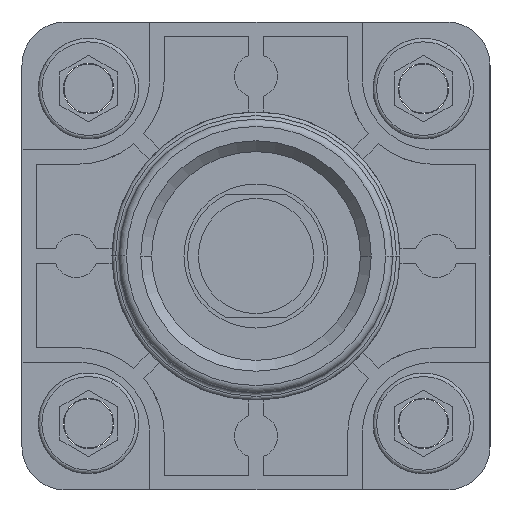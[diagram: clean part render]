
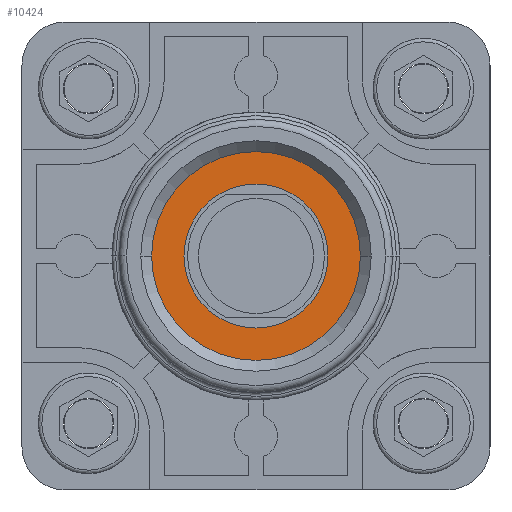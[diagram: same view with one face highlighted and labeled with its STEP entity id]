
A CAD part, left-side view. The second image highlights one B-rep face of the part: STEP entity #10424.
In plain terms, the highlighted planar face has unit normal (-1, 0, 0).
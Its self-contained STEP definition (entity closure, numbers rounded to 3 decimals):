
#10354=CARTESIAN_POINT('Axis2P3D Location',(-56.5,0.,0.)) ;
#10358=CARTESIAN_POINT('Vertex',(-56.5,14.5,0.)) ;
#10360=CARTESIAN_POINT('Vertex',(-56.5,-14.5,0.)) ;
#10385=CARTESIAN_POINT('Axis2P3D Location',(-56.5,0.,0.)) ;
#10397=CARTESIAN_POINT('Axis2P3D Location',(-56.5,0.,0.)) ;
#10406=CARTESIAN_POINT('Axis2P3D Location',(-56.5,0.,0.)) ;
#10410=CARTESIAN_POINT('Vertex',(-56.5,-10.,0.)) ;
#10412=CARTESIAN_POINT('Vertex',(-56.5,10.,0.)) ;
#10415=CARTESIAN_POINT('Axis2P3D Location',(-56.5,0.,0.)) ;
#10355=DIRECTION('Axis2P3D Direction',(-1.,0.,0.)) ;
#10386=DIRECTION('Axis2P3D Direction',(-1.,0.,0.)) ;
#10398=DIRECTION('Axis2P3D Direction',(-1.,0.,0.)) ;
#10399=DIRECTION('Axis2P3D XDirection',(0.,-1.,0.)) ;
#10407=DIRECTION('Axis2P3D Direction',(-1.,0.,0.)) ;
#10416=DIRECTION('Axis2P3D Direction',(-1.,0.,0.)) ;
#10356=AXIS2_PLACEMENT_3D('Circle Axis2P3D',#10354,#10355,$) ;
#10387=AXIS2_PLACEMENT_3D('Circle Axis2P3D',#10385,#10386,$) ;
#10400=AXIS2_PLACEMENT_3D('Plane Axis2P3D',#10397,#10398,#10399) ;
#10408=AXIS2_PLACEMENT_3D('Circle Axis2P3D',#10406,#10407,$) ;
#10417=AXIS2_PLACEMENT_3D('Circle Axis2P3D',#10415,#10416,$) ;
#10403=ORIENTED_EDGE('',*,*,#10389,.F.) ;
#10404=ORIENTED_EDGE('',*,*,#10362,.F.) ;
#10421=ORIENTED_EDGE('',*,*,#10414,.F.) ;
#10422=ORIENTED_EDGE('',*,*,#10419,.F.) ;
#10423=FACE_BOUND('',#10420,.T.) ;
#10424=ADVANCED_FACE('PartBody',(#10405,#10423),#10401,.T.) ;
#10357=CIRCLE('generated circle',#10356,14.5) ;
#10388=CIRCLE('generated circle',#10387,14.5) ;
#10409=CIRCLE('generated circle',#10408,10.) ;
#10418=CIRCLE('generated circle',#10417,10.) ;
#10362=EDGE_CURVE('',#10359,#10361,#10357,.F.) ;
#10389=EDGE_CURVE('',#10361,#10359,#10388,.F.) ;
#10414=EDGE_CURVE('',#10411,#10413,#10409,.T.) ;
#10419=EDGE_CURVE('',#10413,#10411,#10418,.T.) ;
#10402=EDGE_LOOP('',(#10403,#10404)) ;
#10420=EDGE_LOOP('',(#10421,#10422)) ;
#10405=FACE_OUTER_BOUND('',#10402,.T.) ;
#10401=PLANE('',#10400) ;
#10359=VERTEX_POINT('',#10358) ;
#10361=VERTEX_POINT('',#10360) ;
#10411=VERTEX_POINT('',#10410) ;
#10413=VERTEX_POINT('',#10412) ;
